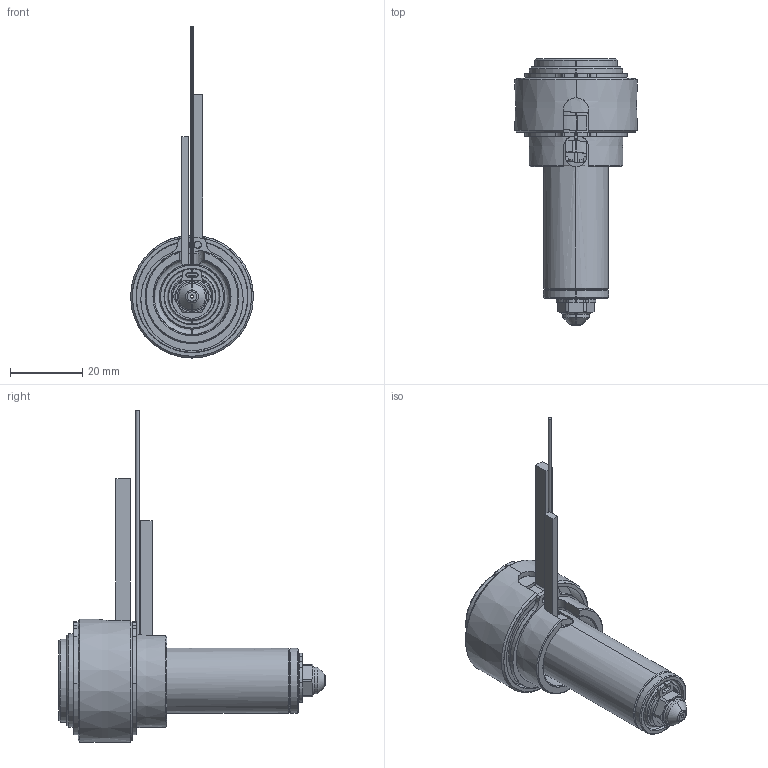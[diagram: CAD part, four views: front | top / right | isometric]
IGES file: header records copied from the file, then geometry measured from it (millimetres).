
Start section: SolidWorks IGES file using analytic representation for surfaces
Global section: file name: C:\Documents and Settings\ws-20\Desktop\TEM\UGER2501-M-A-0 [Øb-0.90 ØC-4.0].IGS; native system: SolidWorks 2012; preprocessor: SolidWorks 2012; author: ws-20; date: 120405.101541; units: millimetre
Bounding box: 34 x 73.9 x 91.9 mm (x, y, z)
Surface area: 18963.6 mm2 (no closed solid volume)
Topology: 0 solids, 0 shells, 192 faces, 2487 edges, 2487 vertices
Faces by surface type: revolution 121, bspline 71
